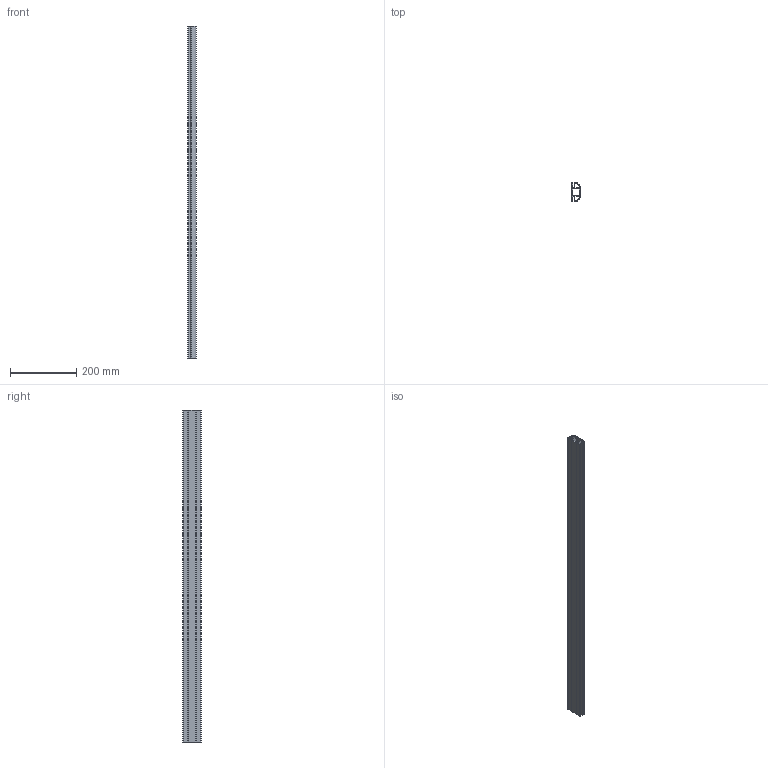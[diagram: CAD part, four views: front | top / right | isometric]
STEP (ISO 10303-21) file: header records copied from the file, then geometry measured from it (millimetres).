
FILE_DESCRIPTION (( 'STEP AP214' ), '1' );
FILE_NAME ('A40808.step', '2024-12-03T16:13:17', ( '' ), ( '' ), 'SwSTEP 2.0', 'SolidWorks 2023', '' );
FILE_SCHEMA (( 'AUTOMOTIVE_DESIGN' ));
Length unit declared in the file: millimetre
Products named in the file (1): A40808
Bounding box: 25 x 55 x 1000 mm (x, y, z)
Volume: 354470.7 mm3; surface area: 362227.2 mm2
Topology: 1 solids, 1 shells, 62 faces, 180 edges, 120 vertices
Faces by surface type: cylinder 32, plane 30
Entity records: 2095 total; most frequent: DIRECTION 370, CARTESIAN_POINT 363, ORIENTED_EDGE 360, EDGE_CURVE 180, AXIS2_PLACEMENT_3D 127, VERTEX_POINT 120, LINE 116, VECTOR 116
